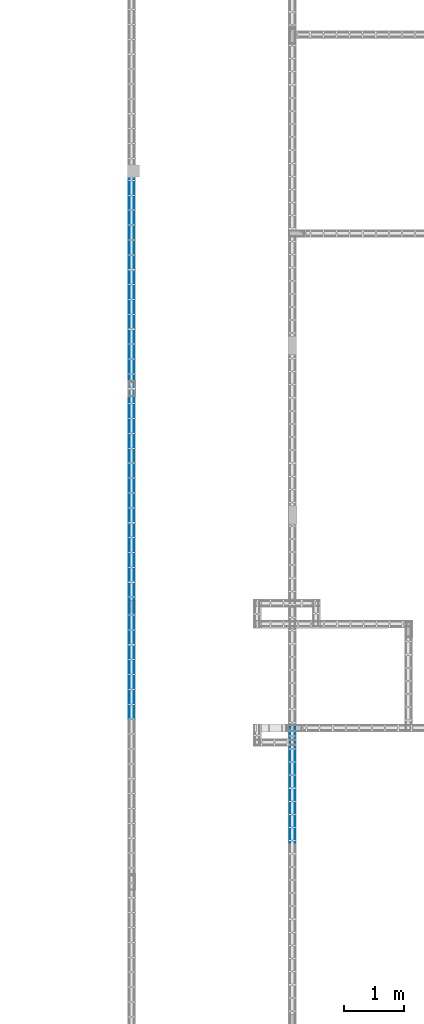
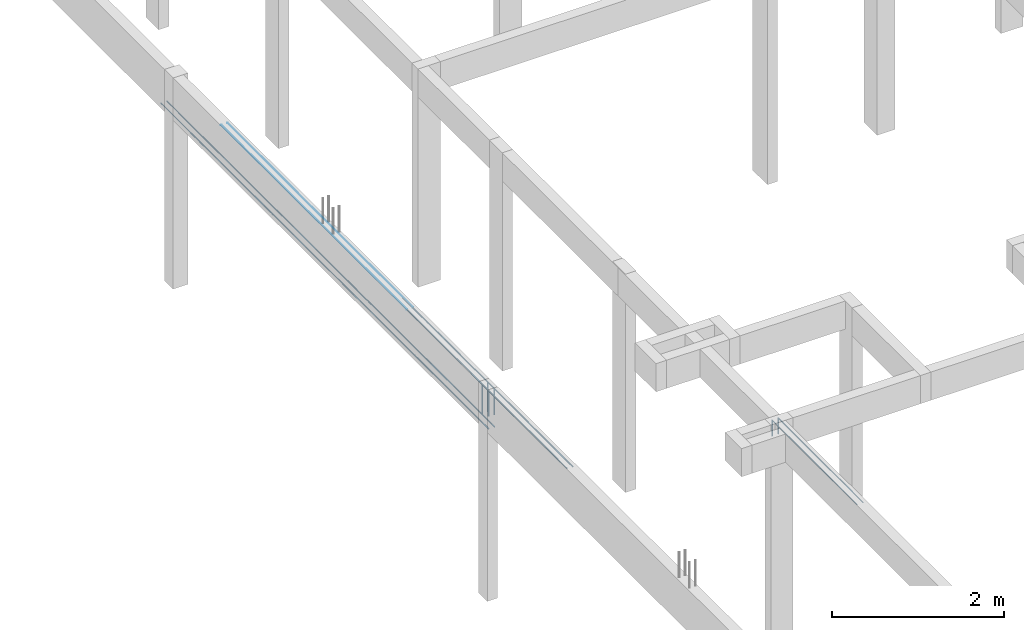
# One storey, part 77 of 236: 10 reinforcing bars.
"""IFC4 building model written with IfcOpenShell, lengths in centimetres."""

from ifc_helpers import new_model, entity, si_unit, derived_unit, frame, origin_with_axes, place, context, project, spatial, element, save


model = new_model("IFC4")

# Units and contexts
model_context = context("Model", 3, precision=1e-05, world=origin_with_axes(), identifier="Body")
ifc_project = project(units=[si_unit("LENGTHUNIT", "METRE", prefix="CENTI"), si_unit("VOLUMEUNIT", "CUBIC_METRE"), si_unit("AREAUNIT", "SQUARE_METRE"), si_unit("POWERUNIT", "WATT"), si_unit("LUMINOUSFLUXUNIT", "LUMEN"), si_unit("ELECTRICCURRENTUNIT", "AMPERE"), si_unit("PRESSUREUNIT", "PASCAL", prefix="KILO"), si_unit("MASSUNIT", "GRAM", prefix="KILO"), si_unit("PLANEANGLEUNIT", "RADIAN"), derived_unit("VOLUMETRICFLOWRATEUNIT", [(si_unit("LENGTHUNIT", "METRE"), 3), (si_unit("TIMEUNIT", "SECOND"), -1)])], contexts=[model_context])

# Site, building, storey
site_placement = place(None, frame((-4000.0, 0.0, 0.0), z_axis=(0.0, 0.0, 1.0), x_axis=(1.0, 0.0, 0.0)))
site = spatial("IfcSite", under=ifc_project, at=site_placement, Name="PADRÃO")
building_placement = place(site_placement, frame((0.0, 0.0, -14.0)))
building = spatial("IfcBuilding", under=site, at=building_placement, Name="CRECHE PRÉ-ESCOLA TIPO 2")
placement_1 = place(building_placement, origin_with_axes())
placement_2 = place(placement_1, frame((0.0, 0.0, 30.0), z_axis=(0.0, 0.0, 1.0), x_axis=(1.0, 0.0, 0.0)))
storey_placement = place(placement_2, frame((0.0, 0.0, 310.0), z_axis=(0.0, 0.0, 1.0), x_axis=(1.0, 0.0, 0.0)))
storey = spatial("IfcBuildingStorey", under=building, at=storey_placement, Name="TERREO", CompositionType="ELEMENT", Elevation=326.0)

# Reinforcing bars
for number, where, z_axis, x_axis, name in (
    (1, (2257.365, 1861.50292989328, 17.505859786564), (0.0, 0.0, 1.0), (1.0, 0.0, 0.0), "V289 - Longitudinal superior"),
    (2, (2249.615, 1861.50292989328, 17.505859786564), (0.0, 0.0, 1.0), (1.0, 0.0, 0.0), "V289 - Longitudinal superior"),
):
    element("IfcReinforcingBar", number, at=place(storey_placement, frame(where, z_axis=z_axis, x_axis=x_axis)), inside=storey, Name=name, BarLength=0.0, CrossSectionArea=0.000122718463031, NominalDiameter=1.25, PredefinedType="MAIN", context=model_context, shape_type="AdvancedSweptSolid", body=[
        entity("IfcSweptDiskSolid", entity("IfcCompositeCurve", [entity("IfcCompositeCurveSegment", "CONTINUOUS", True, entity("IfcPolyline", [entity("IfcCartesianPoint", [0.0, -99.002929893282, -0.630859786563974]), entity("IfcCartesianPoint", [0.0, 98.372070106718, -0.630859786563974])])), entity("IfcCompositeCurveSegment", "CONTINUOUS", True, entity("IfcPolyline", [entity("IfcCartesianPoint", [0.0, 98.372070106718, -0.630859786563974]), entity("IfcCartesianPoint", [0.0, 98.372070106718, -42.3274849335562])]))], False), 0.625),
    ])
for number, where, z_axis, x_axis, name in (
    (3, (2249.49, 2325.6836500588, -36.5), (0.0, 0.0, 1.0), (1.0, 0.0, 0.0), "V290 - Longitudinal inferior"),
    (4, (2257.49, 2325.6836500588, -36.5), (0.0, 0.0, 1.0), (1.0, 0.0, 0.0), "V290 - Longitudinal inferior"),
):
    element("IfcReinforcingBar", number, at=place(storey_placement, frame(where, z_axis=z_axis, x_axis=x_axis)), inside=storey, Name=name, BarLength=0.0, CrossSectionArea=7.853981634e-05, NominalDiameter=1.0, PredefinedType="MAIN", context=model_context, shape_type="AdvancedSweptSolid", body=[
        entity("IfcSweptDiskSolid", entity("IfcCompositeCurve", [entity("IfcCompositeCurveSegment", "CONTINUOUS", True, entity("IfcPolyline", [entity("IfcCartesianPoint", [0.0, -381.183650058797, -0.5]), entity("IfcCartesianPoint", [0.0, 381.183650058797, -0.5])]))], False), 0.5),
    ])
reinforcing_bar_1_placement = place(storey_placement, frame((2249.39, 2350.505, 17.5), z_axis=(0.0, 0.0, 1.0), x_axis=(1.0, 0.0, 0.0)))
element("IfcReinforcingBar", 5, at=reinforcing_bar_1_placement, inside=storey, Name="V290 - Longitudinal superior", BarLength=0.0, CrossSectionArea=5.0265482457e-05, NominalDiameter=0.8, PredefinedType="MAIN", context=model_context, shape_type="AdvancedSweptSolid", body=[
    entity("IfcSweptDiskSolid", entity("IfcCompositeCurve", [entity("IfcCompositeCurveSegment", "CONTINUOUS", True, entity("IfcPolyline", [entity("IfcCartesianPoint", [0.0, -215.878577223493, -0.4]), entity("IfcCartesianPoint", [0.0, 215.878577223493, -0.4])]))], False), 0.4),
])
for number, where, z_axis, x_axis, name in (
    (6, (2249.615, 2050.99707010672, 17.505859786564), (0.0, 0.0, 1.0), (1.0, 0.0, 0.0), "V290 - Longitudinal superior"),
    (7, (2257.365, 2050.99707010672, 17.505859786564), (0.0, 0.0, 1.0), (1.0, 0.0, 0.0), "V290 - Longitudinal superior"),
):
    element("IfcReinforcingBar", number, at=place(storey_placement, frame(where, z_axis=z_axis, x_axis=x_axis)), inside=storey, Name=name, BarLength=0.0, CrossSectionArea=0.000122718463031, NominalDiameter=1.25, PredefinedType="MAIN", context=model_context, shape_type="AdvancedSweptSolid", body=[
        entity("IfcSweptDiskSolid", entity("IfcCompositeCurve", [entity("IfcCompositeCurveSegment", "CONTINUOUS", True, entity("IfcPolyline", [entity("IfcCartesianPoint", [0.0, -105.872070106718, -37.1433002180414]), entity("IfcCartesianPoint", [0.0, -105.872070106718, -0.630859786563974])])), entity("IfcCompositeCurveSegment", "CONTINUOUS", True, entity("IfcPolyline", [entity("IfcCartesianPoint", [0.0, -105.872070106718, -0.630859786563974]), entity("IfcCartesianPoint", [0.0, 106.502929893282, -0.630859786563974])]))], False), 0.625),
    ])
reinforcing_bar_2_placement = place(storey_placement, frame((2257.59, 2350.505, 17.5), z_axis=(0.0, 0.0, 1.0), x_axis=(1.0, 0.0, 0.0)))
element("IfcReinforcingBar", 8, at=reinforcing_bar_2_placement, inside=storey, Name="V290 - Longitudinal superior", BarLength=0.0, CrossSectionArea=5.0265482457e-05, NominalDiameter=0.8, PredefinedType="MAIN", context=model_context, shape_type="AdvancedSweptSolid", body=[
    entity("IfcSweptDiskSolid", entity("IfcCompositeCurve", [entity("IfcCompositeCurveSegment", "CONTINUOUS", True, entity("IfcPolyline", [entity("IfcCartesianPoint", [0.0, -215.878577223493, -0.4]), entity("IfcCartesianPoint", [0.0, 215.878577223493, -0.4])]))], False), 0.4),
])
for number, where, z_axis, x_axis, name in (
    (9, (2527.6, 1653.9318751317, -2.49624973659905), (0.0, 0.0, 1.0), (1.0, 0.0, 0.0), "V296 - Longitudinal superior"),
    (10, (2519.4, 1653.9318751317, -2.49624973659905), (0.0, 0.0, 1.0), (1.0, 0.0, 0.0), "V296 - Longitudinal superior"),
):
    element("IfcReinforcingBar", number, at=place(storey_placement, frame(where, z_axis=z_axis, x_axis=x_axis)), inside=storey, Name=name, BarLength=0.0, CrossSectionArea=5.0265482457e-05, NominalDiameter=0.8, PredefinedType="MAIN", context=model_context, shape_type="AdvancedSweptSolid", body=[
        entity("IfcSweptDiskSolid", entity("IfcCompositeCurve", [entity("IfcCompositeCurveSegment", "CONTINUOUS", True, entity("IfcPolyline", [entity("IfcCartesianPoint", [0.0, -98.9118751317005, -0.403750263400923]), entity("IfcCartesianPoint", [0.0, 98.5081248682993, -0.403750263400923])])), entity("IfcCompositeCurveSegment", "CONTINUOUS", True, entity("IfcPolyline", [entity("IfcCartesianPoint", [0.0, 98.5081248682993, -0.403750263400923]), entity("IfcCartesianPoint", [0.0, 98.5081248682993, -22.7014629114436])]))], False), 0.4),
    ])

save(model, "model.ifc")
